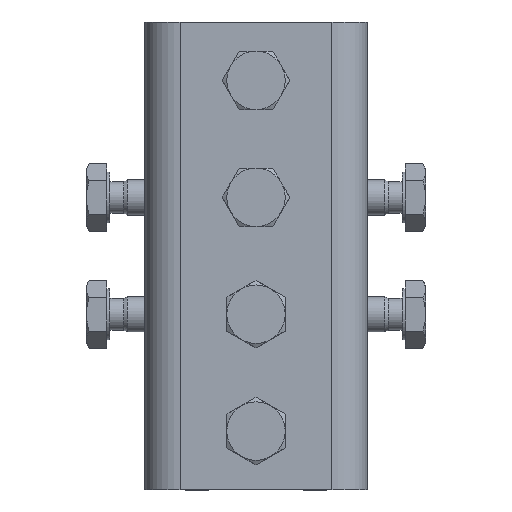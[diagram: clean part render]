
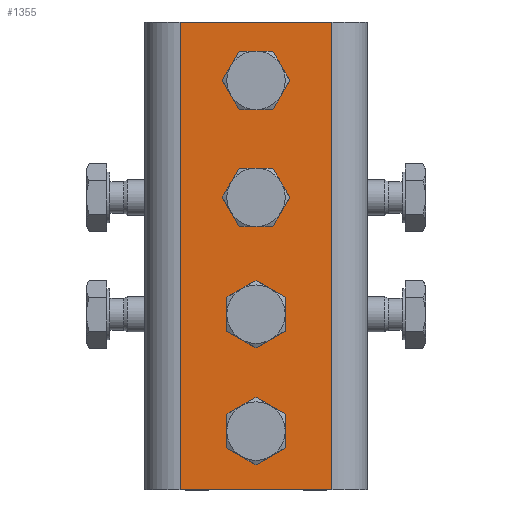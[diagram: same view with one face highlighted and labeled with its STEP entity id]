
A CAD part, top view. The second image highlights one B-rep face of the part: STEP entity #1355.
In plain terms, the highlighted planar face has unit normal (0, 0, 1).
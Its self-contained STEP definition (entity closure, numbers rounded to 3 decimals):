
#75=FACE_BOUND('',#245,.T.);
#76=FACE_BOUND('',#246,.T.);
#77=FACE_BOUND('',#247,.T.);
#78=FACE_BOUND('',#248,.T.);
#153=FACE_OUTER_BOUND('',#244,.T.);
#244=EDGE_LOOP('',(#953,#954,#955,#956));
#245=EDGE_LOOP('',(#957));
#246=EDGE_LOOP('',(#958));
#247=EDGE_LOOP('',(#959));
#248=EDGE_LOOP('',(#960));
#380=LINE('',#2083,#480);
#382=LINE('',#2087,#482);
#383=LINE('',#2089,#483);
#384=LINE('',#2090,#484);
#480=VECTOR('',#1640,80.);
#482=VECTOR('',#1644,26.);
#483=VECTOR('',#1645,80.);
#484=VECTOR('',#1646,26.);
#578=CIRCLE('',#1454,2.459);
#579=CIRCLE('',#1455,2.459);
#580=CIRCLE('',#1456,2.459);
#581=CIRCLE('',#1457,2.459);
#646=VERTEX_POINT('',#2067);
#649=VERTEX_POINT('',#2074);
#651=VERTEX_POINT('',#2086);
#652=VERTEX_POINT('',#2088);
#653=VERTEX_POINT('',#2091);
#654=VERTEX_POINT('',#2093);
#655=VERTEX_POINT('',#2095);
#656=VERTEX_POINT('',#2097);
#766=EDGE_CURVE('',#646,#649,#380,.T.);
#768=EDGE_CURVE('',#649,#651,#382,.T.);
#769=EDGE_CURVE('',#651,#652,#383,.T.);
#770=EDGE_CURVE('',#652,#646,#384,.T.);
#771=EDGE_CURVE('',#653,#653,#578,.T.);
#772=EDGE_CURVE('',#654,#654,#579,.T.);
#773=EDGE_CURVE('',#655,#655,#580,.T.);
#774=EDGE_CURVE('',#656,#656,#581,.T.);
#953=ORIENTED_EDGE('',*,*,#766,.T.);
#954=ORIENTED_EDGE('',*,*,#768,.T.);
#955=ORIENTED_EDGE('',*,*,#769,.T.);
#956=ORIENTED_EDGE('',*,*,#770,.T.);
#957=ORIENTED_EDGE('',*,*,#771,.T.);
#958=ORIENTED_EDGE('',*,*,#772,.T.);
#959=ORIENTED_EDGE('',*,*,#773,.T.);
#960=ORIENTED_EDGE('',*,*,#774,.T.);
#1301=PLANE('',#1453);
#1355=ADVANCED_FACE('',(#153,#75,#76,#77,#78),#1301,.T.);
#1453=AXIS2_PLACEMENT_3D('',#2085,#1642,#1643);
#1454=AXIS2_PLACEMENT_3D('',#2092,#1647,#1648);
#1455=AXIS2_PLACEMENT_3D('',#2094,#1649,#1650);
#1456=AXIS2_PLACEMENT_3D('',#2096,#1651,#1652);
#1457=AXIS2_PLACEMENT_3D('',#2098,#1653,#1654);
#1640=DIRECTION('',(0.,1.,0.));
#1642=DIRECTION('center_axis',(0.,0.,1.));
#1643=DIRECTION('ref_axis',(1.,0.,0.));
#1644=DIRECTION('',(-1.,0.,0.));
#1645=DIRECTION('',(0.,-1.,0.));
#1646=DIRECTION('',(1.,0.,0.));
#1647=DIRECTION('center_axis',(0.,0.,-1.));
#1648=DIRECTION('ref_axis',(1.,0.,0.));
#1649=DIRECTION('center_axis',(0.,0.,-1.));
#1650=DIRECTION('ref_axis',(1.,0.,0.));
#1651=DIRECTION('center_axis',(0.,0.,-1.));
#1652=DIRECTION('ref_axis',(1.,0.,0.));
#1653=DIRECTION('center_axis',(0.,0.,-1.));
#1654=DIRECTION('ref_axis',(1.,0.,0.));
#2067=CARTESIAN_POINT('',(13.,-40.,0.));
#2074=CARTESIAN_POINT('',(13.,40.,0.));
#2083=CARTESIAN_POINT('',(13.,20.,0.));
#2085=CARTESIAN_POINT('Origin',(53.529,0.,0.));
#2086=CARTESIAN_POINT('',(-13.,40.,0.));
#2087=CARTESIAN_POINT('',(55.436,40.,0.));
#2088=CARTESIAN_POINT('',(-13.,-40.,0.));
#2089=CARTESIAN_POINT('',(-13.,-20.,0.));
#2090=CARTESIAN_POINT('',(-55.436,-40.,0.));
#2091=CARTESIAN_POINT('',(2.459,30.,0.));
#2092=CARTESIAN_POINT('Origin',(0.,30.,0.));
#2093=CARTESIAN_POINT('',(2.459,-30.,0.));
#2094=CARTESIAN_POINT('Origin',(0.,-30.,0.));
#2095=CARTESIAN_POINT('',(2.459,10.,0.));
#2096=CARTESIAN_POINT('Origin',(0.,10.,0.));
#2097=CARTESIAN_POINT('',(2.459,-10.,0.));
#2098=CARTESIAN_POINT('Origin',(0.,-10.,0.));
